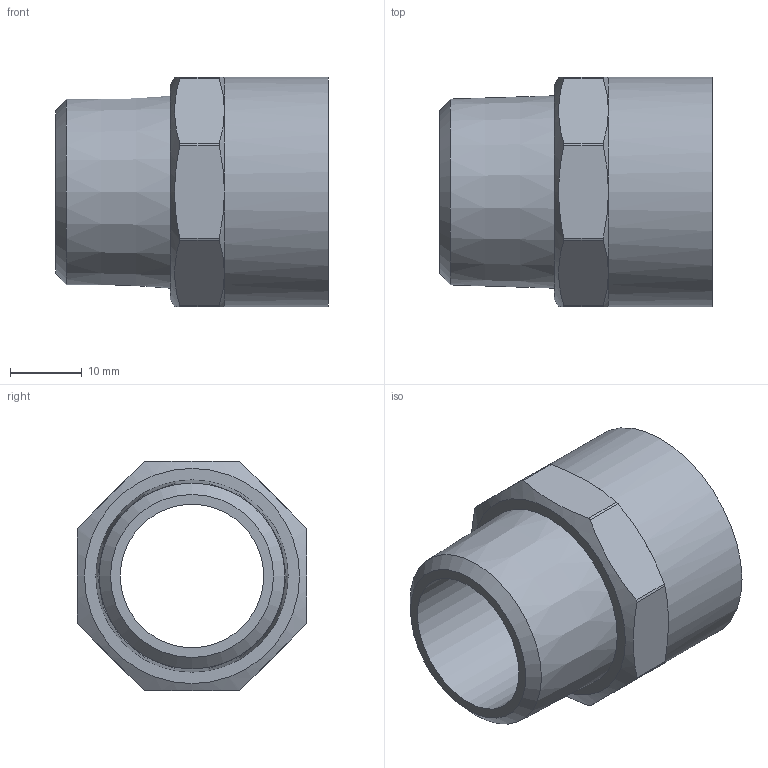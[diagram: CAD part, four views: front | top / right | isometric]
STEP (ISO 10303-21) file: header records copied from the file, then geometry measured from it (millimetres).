
FILE_DESCRIPTION(/* description */ (''),/* implementation_level */ '2;1');
FILE_NAME(/* name */ 'C:\Users\gomulka\Desktop\Nowy folder (2)\update\14243_28-34(5).stp',/* time_stamp */ '2017-10-19T12:14:48+02:00',/* author */ ('gomulka'),/* organization */ (''),/* preprocessor_version */ 'ST-DEVELOPER v15.6',/* originating_system */ 'Autodesk Inventor 2015',/* authorisation */ '');
FILE_SCHEMA (('AUTOMOTIVE_DESIGN { 1 0 10303 214 3 1 1 }'));
Length unit declared in the file: millimetre
Products named in the file (1): 14243_28-34(5)
Bounding box: 38 x 32 x 32 mm (x, y, z)
Volume: 8761.9 mm3; surface area: 7239.1 mm2
Topology: 1 solids, 1 shells, 35 faces, 82 edges, 51 vertices
Faces by surface type: cone 12, plane 12, cylinder 11
Full cylindrical faces by diameter (mm): 20 x1, 28 x1, 32 x1
Entity records: 962 total; most frequent: CARTESIAN_POINT 208, DIRECTION 156, ORIENTED_EDGE 148, EDGE_CURVE 74, AXIS2_PLACEMENT_3D 70, VERTEX_POINT 50, EDGE_LOOP 46, FACE_OUTER_BOUND 35
